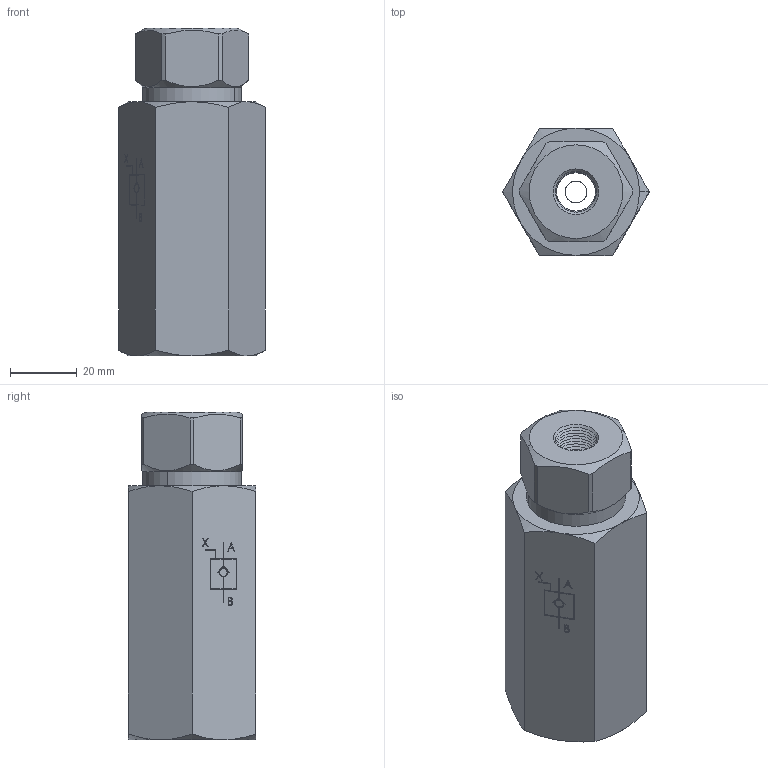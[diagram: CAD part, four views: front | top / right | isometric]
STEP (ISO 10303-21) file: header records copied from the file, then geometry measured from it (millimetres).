
FILE_DESCRIPTION (( 'STEP AP214' ), '1' );
FILE_NAME ('2257-7-14.STEP', '2015-04-08T21:00:13', ( '' ), ( '' ), 'SwSTEP 2.0', 'SolidWorks 2014', '' );
FILE_SCHEMA (( 'AUTOMOTIVE_DESIGN' ));
Length unit declared in the file: millimetre
Products named in the file (1): 2257-7-14
Bounding box: 43.88 x 38 x 98 mm (x, y, z)
Surface area: 16132.9 mm2 (no closed solid volume)
Topology: 0 solids, 29 shells, 287 faces, 992 edges, 680 vertices
Faces by surface type: plane 157, cone 76, bspline 33, cylinder 21
Entity records: 16370 total; most frequent: CARTESIAN_POINT 5083, ORIENTED_EDGE 1564, DIRECTION 1536, EDGE_CURVE 992, VERTEX_POINT 680, LINE 654, VECTOR 654, AXIS2_PLACEMENT_3D 441
